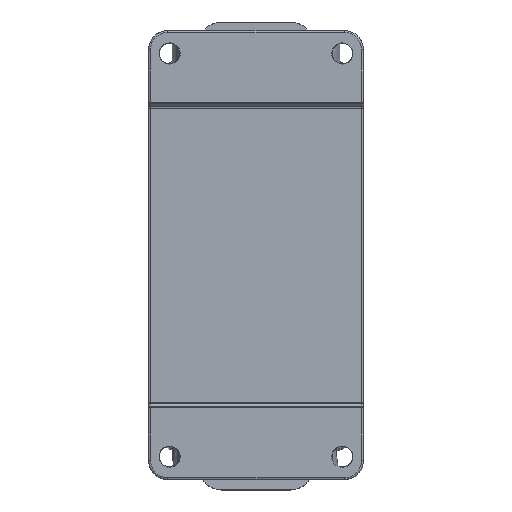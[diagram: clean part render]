
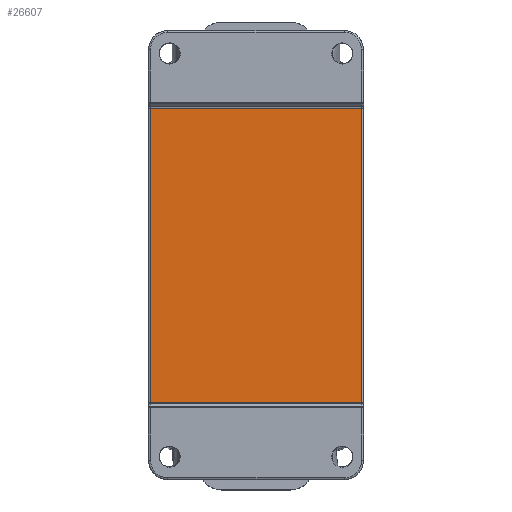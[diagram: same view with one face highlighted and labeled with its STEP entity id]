
A CAD part, front view. The second image highlights one B-rep face of the part: STEP entity #26607.
In plain terms, the highlighted planar face has unit normal (0, -1, 0).
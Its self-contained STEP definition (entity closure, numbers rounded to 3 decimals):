
#518 = VERTEX_POINT ( 'NONE', #7239 ) ;
#527 = VECTOR ( 'NONE', #22143, 1000. ) ;
#629 = VERTEX_POINT ( 'NONE', #3503 ) ;
#945 = ORIENTED_EDGE ( 'NONE', *, *, #26710, .F. ) ;
#1176 = DIRECTION ( 'NONE',  ( 0., 0., 1. ) ) ;
#1578 = CARTESIAN_POINT ( 'NONE',  ( 27.5, -24., -38.293 ) ) ;
#2190 = FACE_OUTER_BOUND ( 'NONE', #9225, .T. ) ;
#2359 = ORIENTED_EDGE ( 'NONE', *, *, #15825, .F. ) ;
#3231 = ORIENTED_EDGE ( 'NONE', *, *, #24259, .F. ) ;
#3503 = CARTESIAN_POINT ( 'NONE',  ( -27.5, -24., -38.293 ) ) ;
#3540 = EDGE_CURVE ( 'NONE', #22634, #15592, #6204, .T. ) ;
#3987 = AXIS2_PLACEMENT_3D ( 'NONE', #12534, #25767, #1176 ) ;
#5764 = LINE ( 'NONE', #27053, #22604 ) ;
#6204 = LINE ( 'NONE', #16735, #13899 ) ;
#7239 = CARTESIAN_POINT ( 'NONE',  ( -27.5, -24., 38.293 ) ) ;
#7278 = CARTESIAN_POINT ( 'NONE',  ( 27.5, -24., 38.293 ) ) ;
#9225 = EDGE_LOOP ( 'NONE', ( #2359, #945, #3231, #28975 ) ) ;
#9889 = VECTOR ( 'NONE', #15343, 1000. ) ;
#10004 = LINE ( 'NONE', #28953, #527 ) ;
#10192 = DIRECTION ( 'NONE',  ( 0., 0., -1. ) ) ;
#10388 = PLANE ( 'NONE',  #3987 ) ;
#12534 = CARTESIAN_POINT ( 'NONE',  ( -33.6, -24., -38.5 ) ) ;
#13899 = VECTOR ( 'NONE', #10192, 1000. ) ;
#15343 = DIRECTION ( 'NONE',  ( 0., 0., 1. ) ) ;
#15592 = VERTEX_POINT ( 'NONE', #1578 ) ;
#15825 = EDGE_CURVE ( 'NONE', #518, #22634, #10004, .T. ) ;
#16735 = CARTESIAN_POINT ( 'NONE',  ( 27.5, -24., -38.537 ) ) ;
#19642 = CARTESIAN_POINT ( 'NONE',  ( -27.5, -24., 38.516 ) ) ;
#22143 = DIRECTION ( 'NONE',  ( 1., 0., 0. ) ) ;
#22145 = LINE ( 'NONE', #19642, #9889 ) ;
#22604 = VECTOR ( 'NONE', #25011, 1000. ) ;
#22634 = VERTEX_POINT ( 'NONE', #7278 ) ;
#24259 = EDGE_CURVE ( 'NONE', #15592, #629, #5764, .T. ) ;
#25011 = DIRECTION ( 'NONE',  ( -1., 0., 0. ) ) ;
#25767 = DIRECTION ( 'NONE',  ( 0., 1., 0. ) ) ;
#26607 = ADVANCED_FACE ( 'NONE', ( #2190 ), #10388, .F. ) ;
#26710 = EDGE_CURVE ( 'NONE', #629, #518, #22145, .T. ) ;
#27053 = CARTESIAN_POINT ( 'NONE',  ( -33.6, -24., -38.293 ) ) ;
#28953 = CARTESIAN_POINT ( 'NONE',  ( -33.6, -24., 38.293 ) ) ;
#28975 = ORIENTED_EDGE ( 'NONE', *, *, #3540, .F. ) ;
